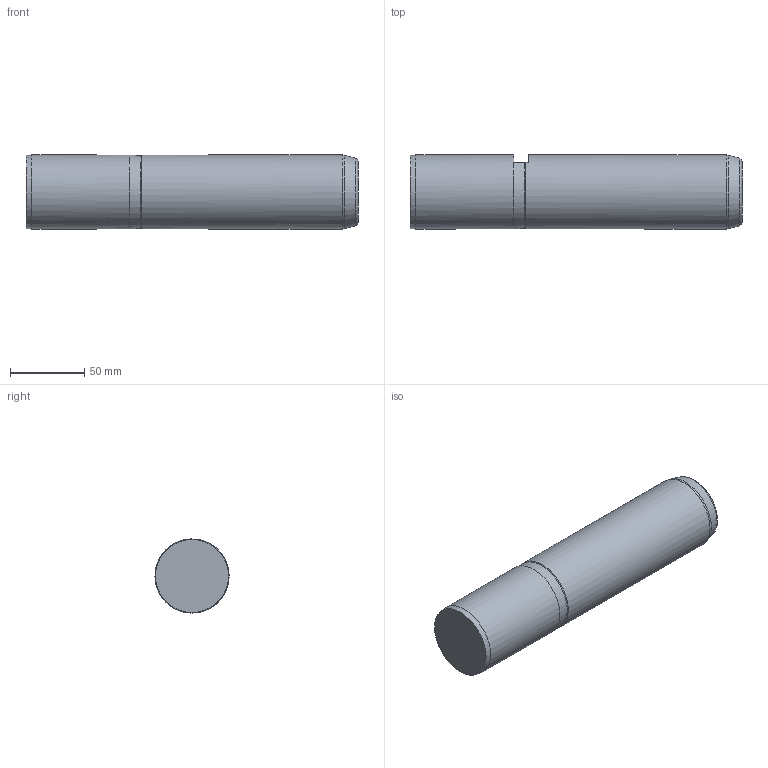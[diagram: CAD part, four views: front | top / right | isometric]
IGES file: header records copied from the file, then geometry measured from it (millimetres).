
Global section: file name: VW50224.ipt; native system: Autodesk Inventor 2021; preprocessor: unknown; author: SM; date: 20220118.101309; units: millimetre
Bounding box: 224 x 50 x 50 mm (x, y, z)
Volume: 436284.1 mm3; surface area: 38754 mm2
Topology: 1 solids, 1 shells, 13 faces, 29 edges, 18 vertices
Faces by surface type: plane 5, cone 4, cylinder 2, revolution 2
Full cylindrical faces by diameter (mm): 50 x2
